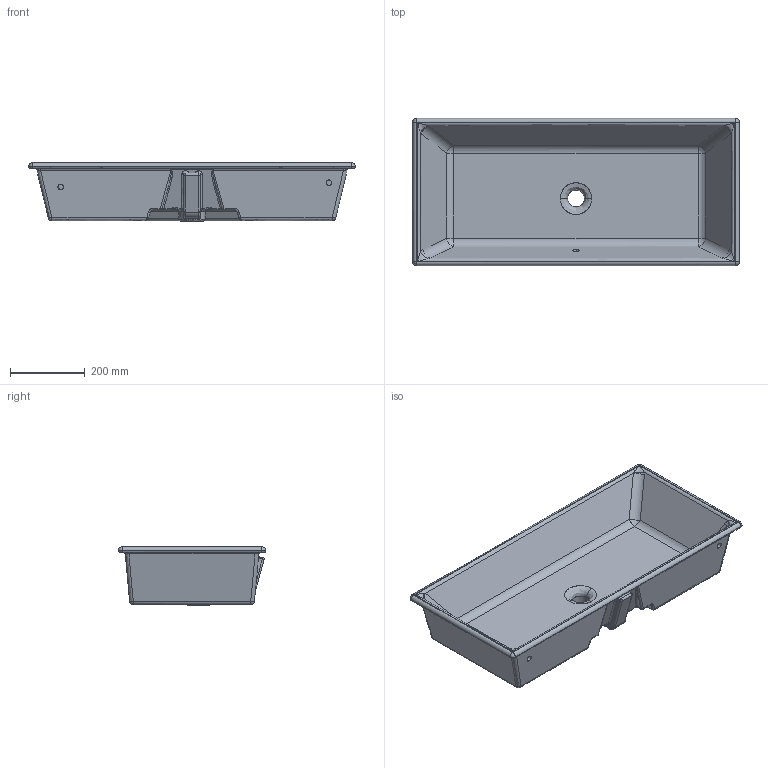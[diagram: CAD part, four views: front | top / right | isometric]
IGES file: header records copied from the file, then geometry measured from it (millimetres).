
Start section: Comment
Global section: file name: gaia80.igs; native system:  By Spatial Corp.; preprocessor: XPlus GENERIC/IGES 3.0; author: Author; organization: Title; date: 20070625.104338; units: millimetre
Bounding box: 875 x 395 x 156 mm (x, y, z)
Surface area: 1153384 mm2 (no closed solid volume)
Topology: 0 solids, 0 shells, 256 faces, 1166 edges, 1128 vertices
Faces by surface type: bspline 256
